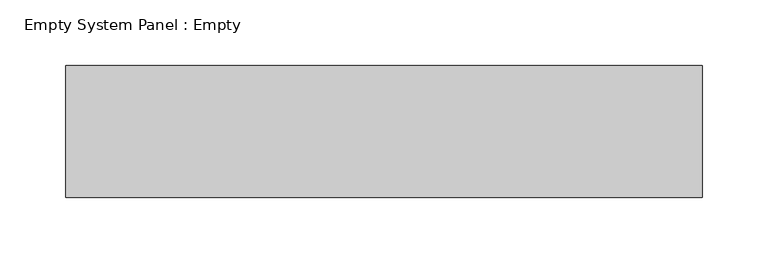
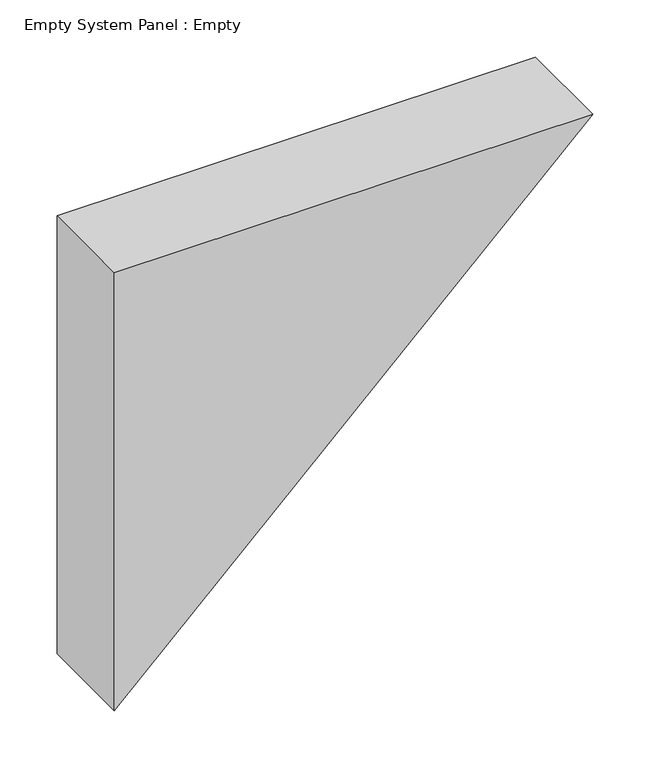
"""IFC4 building model written with IfcOpenShell, lengths in millimetres: plate geometry, Empty System Panel : Empty."""

from ifc_helpers import new_model, si_unit, frame, origin, place, context, project, spatial, polyline, outline, extrude, source, transform, mapped, element, save


def empty_system_panel_empty_8b3ec2bf(model_context):
    return source(origin(), model_context, "Body", "SweptSolid", [
        extrude(outline(polyline([(467.7734616, -241.644078), (0.0, -241.644078), (467.7734616, 241.644078), (467.7734616, -241.644078)])), frame((0.0, -50.0, 0.0), z_axis=(0.0, 1.0, 0.0), x_axis=(0.0, 0.0, 1.0)), (0.0, 0.0, 1.0), 100.0),
    ])


if __name__ == "__main__":
    model = new_model("IFC4")
    model_context = context("Model", 3, world=origin())
    ifc_project = project(units=[si_unit("LENGTHUNIT", "METRE", prefix="MILLI")], contexts=[model_context])
    site = spatial("IfcSite", under=ifc_project)
    building = spatial("IfcBuilding", under=site)
    placement = place(None, origin())
    empty_system_panel_empty_shape = empty_system_panel_empty_8b3ec2bf(model_context)
    element("IfcPlate", 1, ObjectType="Empty System Panel : Empty", at=placement, inside=building, context=model_context, shape_type="MappedRepresentation", body=[
        mapped(empty_system_panel_empty_shape, transform((0.0, 0.0, 0.0), x_axis=(1.0, 0.0, 0.0), y_axis=(0.0, 1.0, 0.0), z_axis=(0.0, 0.0, 1.0))),
    ])
    save(model, "model.ifc")
